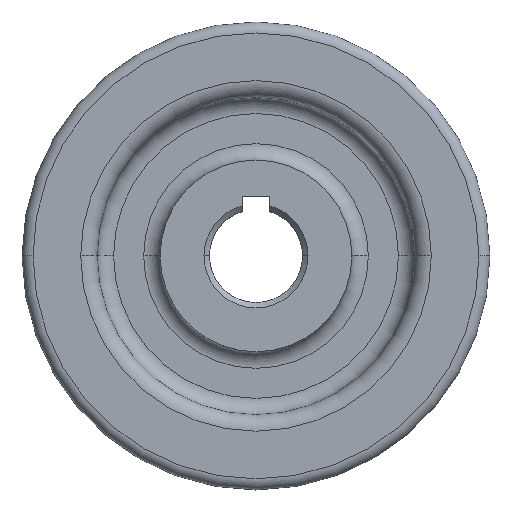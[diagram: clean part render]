
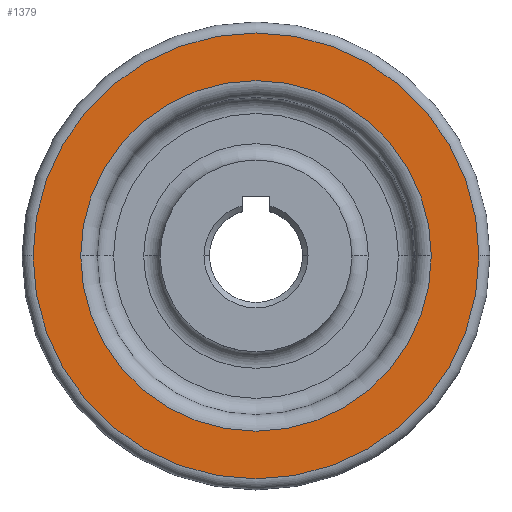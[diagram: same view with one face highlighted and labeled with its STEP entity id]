
A CAD part, top view. The second image highlights one B-rep face of the part: STEP entity #1379.
In plain terms, the highlighted planar face has unit normal (0, 0, 1).
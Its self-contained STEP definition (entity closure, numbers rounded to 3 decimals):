
#5 = VERTEX_POINT ( 'NONE', #361 ) ;
#19 = DIRECTION ( 'NONE',  ( -1., 0., 0. ) ) ;
#39 = DIRECTION ( 'NONE',  ( 0., 0., -1. ) ) ;
#63 = AXIS2_PLACEMENT_3D ( 'NONE', #1017, #258, #1127 ) ;
#66 = CARTESIAN_POINT ( 'NONE',  ( 0., 0., 0. ) ) ;
#75 = EDGE_CURVE ( 'NONE', #906, #758, #1584, .T. ) ;
#85 = EDGE_LOOP ( 'NONE', ( #971, #1285 ) ) ;
#109 = FACE_BOUND ( 'NONE', #299, .T. ) ;
#119 = AXIS2_PLACEMENT_3D ( 'NONE', #704, #1539, #818 ) ;
#185 = DIRECTION ( 'NONE',  ( -1., 0., 0. ) ) ;
#258 = DIRECTION ( 'NONE',  ( 0., 0., 1. ) ) ;
#299 = EDGE_LOOP ( 'NONE', ( #1028, #1225 ) ) ;
#361 = CARTESIAN_POINT ( 'NONE',  ( -32., 0., 0. ) ) ;
#414 = EDGE_CURVE ( 'NONE', #568, #5, #626, .T. ) ;
#431 = AXIS2_PLACEMENT_3D ( 'NONE', #792, #39, #920 ) ;
#568 = VERTEX_POINT ( 'NONE', #1171 ) ;
#626 = CIRCLE ( 'NONE', #1482, 32. ) ;
#704 = CARTESIAN_POINT ( 'NONE',  ( 0., 0., 0. ) ) ;
#707 = CARTESIAN_POINT ( 'NONE',  ( 40.7, 0., 0. ) ) ;
#746 = FACE_OUTER_BOUND ( 'NONE', #85, .T. ) ;
#758 = VERTEX_POINT ( 'NONE', #707 ) ;
#772 = DIRECTION ( 'NONE',  ( 0., 0., -1. ) ) ;
#792 = CARTESIAN_POINT ( 'NONE',  ( 0., 0., 0. ) ) ;
#818 = DIRECTION ( 'NONE',  ( -1., 0., 0. ) ) ;
#890 = EDGE_CURVE ( 'NONE', #758, #906, #1446, .T. ) ;
#906 = VERTEX_POINT ( 'NONE', #950 ) ;
#920 = DIRECTION ( 'NONE',  ( -1., 0., 0. ) ) ;
#946 = DIRECTION ( 'NONE',  ( 0., 0., -1. ) ) ;
#950 = CARTESIAN_POINT ( 'NONE',  ( -40.7, 0., 0. ) ) ;
#971 = ORIENTED_EDGE ( 'NONE', *, *, #75, .T. ) ;
#1010 = CIRCLE ( 'NONE', #431, 32. ) ;
#1017 = CARTESIAN_POINT ( 'NONE',  ( 0., 0., 0. ) ) ;
#1028 = ORIENTED_EDGE ( 'NONE', *, *, #1240, .T. ) ;
#1127 = DIRECTION ( 'NONE',  ( -1., 0., 0. ) ) ;
#1171 = CARTESIAN_POINT ( 'NONE',  ( 32., 0., 0. ) ) ;
#1225 = ORIENTED_EDGE ( 'NONE', *, *, #414, .T. ) ;
#1240 = EDGE_CURVE ( 'NONE', #5, #568, #1010, .T. ) ;
#1285 = ORIENTED_EDGE ( 'NONE', *, *, #890, .T. ) ;
#1379 = ADVANCED_FACE ( 'NONE', ( #746, #109 ), #1535, .F. ) ;
#1446 = CIRCLE ( 'NONE', #119, 40.7 ) ;
#1482 = AXIS2_PLACEMENT_3D ( 'NONE', #1491, #772, #19 ) ;
#1491 = CARTESIAN_POINT ( 'NONE',  ( 0., 0., 0. ) ) ;
#1515 = AXIS2_PLACEMENT_3D ( 'NONE', #66, #946, #185 ) ;
#1535 = PLANE ( 'NONE',  #1515 ) ;
#1539 = DIRECTION ( 'NONE',  ( 0., 0., 1. ) ) ;
#1584 = CIRCLE ( 'NONE', #63, 40.7 ) ;
